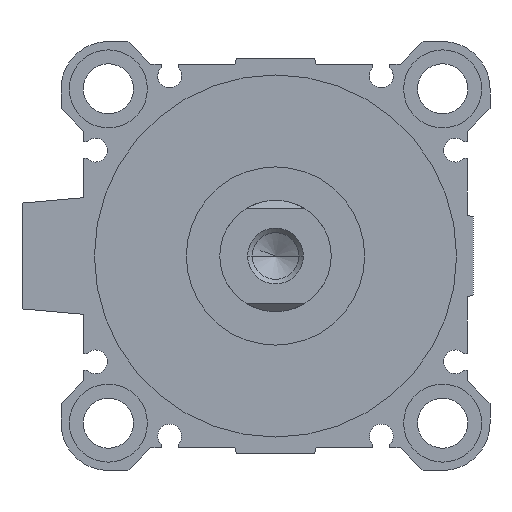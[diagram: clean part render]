
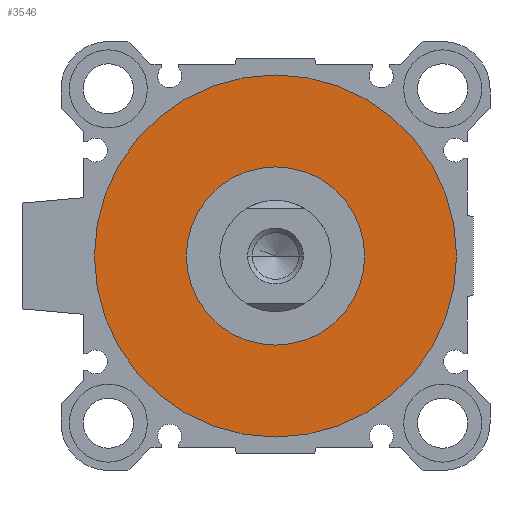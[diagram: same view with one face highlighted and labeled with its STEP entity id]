
A CAD part, left-side view. The second image highlights one B-rep face of the part: STEP entity #3546.
In plain terms, the highlighted planar face has unit normal (-1, 0, 0).
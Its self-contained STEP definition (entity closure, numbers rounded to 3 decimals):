
#253 = EDGE_LOOP ( 'NONE', ( #510, #1662 ) ) ;
#510 = ORIENTED_EDGE ( 'NONE', *, *, #1859, .F. ) ;
#512 = DIRECTION ( 'NONE',  ( 1., 0., 0. ) ) ;
#911 = AXIS2_PLACEMENT_3D ( 'NONE', #3050, #512, #4680 ) ;
#916 = CARTESIAN_POINT ( 'NONE',  ( 4., 0., 0. ) ) ;
#1141 = VERTEX_POINT ( 'NONE', #4022 ) ;
#1209 = DIRECTION ( 'NONE',  ( 1., 0., 0. ) ) ;
#1242 = ORIENTED_EDGE ( 'NONE', *, *, #4896, .T. ) ;
#1327 = VERTEX_POINT ( 'NONE', #3891 ) ;
#1440 = CIRCLE ( 'NONE', #4777, 16. ) ;
#1607 = VERTEX_POINT ( 'NONE', #2936 ) ;
#1636 = CIRCLE ( 'NONE', #2600, 32.5 ) ;
#1662 = ORIENTED_EDGE ( 'NONE', *, *, #4781, .F. ) ;
#1859 = EDGE_CURVE ( 'NONE', #1327, #1607, #1636, .T. ) ;
#2134 = DIRECTION ( 'NONE',  ( 0., 0., -1. ) ) ;
#2383 = AXIS2_PLACEMENT_3D ( 'NONE', #2544, #4207, #2134 ) ;
#2402 = FACE_OUTER_BOUND ( 'NONE', #253, .T. ) ;
#2544 = CARTESIAN_POINT ( 'NONE',  ( 4., 0., 0. ) ) ;
#2600 = AXIS2_PLACEMENT_3D ( 'NONE', #916, #2995, #3321 ) ;
#2642 = FACE_BOUND ( 'NONE', #3350, .T. ) ;
#2682 = VERTEX_POINT ( 'NONE', #5148 ) ;
#2714 = EDGE_CURVE ( 'NONE', #1141, #2682, #1440, .T. ) ;
#2778 = DIRECTION ( 'NONE',  ( 0., 0., -1. ) ) ;
#2828 = CIRCLE ( 'NONE', #3081, 16. ) ;
#2906 = CARTESIAN_POINT ( 'NONE',  ( 4., 0., 0. ) ) ;
#2936 = CARTESIAN_POINT ( 'NONE',  ( 4., 0., -32.5 ) ) ;
#2955 = PLANE ( 'NONE',  #911 ) ;
#2986 = DIRECTION ( 'NONE',  ( 0., 0., -1. ) ) ;
#2995 = DIRECTION ( 'NONE',  ( 1., 0., 0. ) ) ;
#3050 = CARTESIAN_POINT ( 'NONE',  ( 4., 0., 0. ) ) ;
#3081 = AXIS2_PLACEMENT_3D ( 'NONE', #2906, #1209, #2986 ) ;
#3124 = ORIENTED_EDGE ( 'NONE', *, *, #2714, .T. ) ;
#3321 = DIRECTION ( 'NONE',  ( 0., 0., -1. ) ) ;
#3344 = CIRCLE ( 'NONE', #2383, 32.5 ) ;
#3350 = EDGE_LOOP ( 'NONE', ( #1242, #3124 ) ) ;
#3546 = ADVANCED_FACE ( 'NONE', ( #2402, #2642 ), #2955, .F. ) ;
#3891 = CARTESIAN_POINT ( 'NONE',  ( 4., 0., 32.5 ) ) ;
#4022 = CARTESIAN_POINT ( 'NONE',  ( 4., 0., -16. ) ) ;
#4207 = DIRECTION ( 'NONE',  ( 1., 0., 0. ) ) ;
#4465 = CARTESIAN_POINT ( 'NONE',  ( 4., 0., 0. ) ) ;
#4680 = DIRECTION ( 'NONE',  ( 0., 1., 0. ) ) ;
#4777 = AXIS2_PLACEMENT_3D ( 'NONE', #4465, #5315, #2778 ) ;
#4781 = EDGE_CURVE ( 'NONE', #1607, #1327, #3344, .T. ) ;
#4896 = EDGE_CURVE ( 'NONE', #2682, #1141, #2828, .T. ) ;
#5148 = CARTESIAN_POINT ( 'NONE',  ( 4., 0., 16. ) ) ;
#5315 = DIRECTION ( 'NONE',  ( 1., 0., 0. ) ) ;
